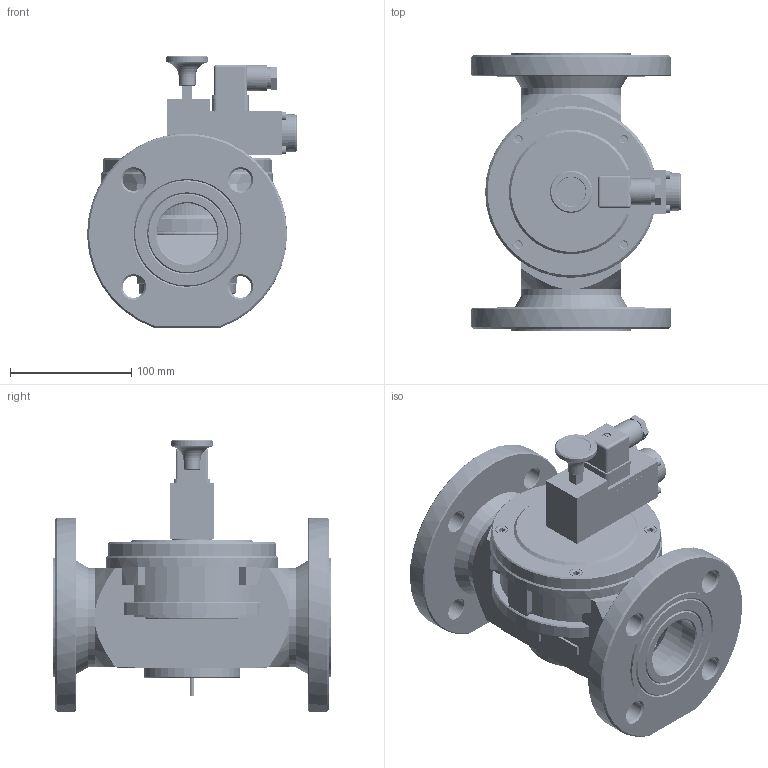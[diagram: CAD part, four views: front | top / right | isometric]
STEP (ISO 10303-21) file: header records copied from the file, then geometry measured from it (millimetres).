
FILE_DESCRIPTION( ( 'Unknown' ), '1' );
FILE_NAME( 'D:/Wyroby/Widoki gabarytowe/Zawory ZB/ZB_50k/ZB_50k.stp', 'Unknown', ( 'Unknown' ), ( 'Unknown' ), 'XStep 1.0', 'Unknown', ' ' );
FILE_SCHEMA( ( 'CONFIG_CONTROL_DESIGN' ) );
Length unit declared in the file: millimetre
Products named in the file (71): Gniazdo_wtykowe_B282; Wa_106_01_03bez_korków; Wa_104_01_02; Z³¹cze_C18211G21; Assem1; Wa_209_01_01; ElektromagnesZB_z_wtyczk¹; Wa_106_01_00; Wa_209_01_00; Wa_209_01_01bez_ko³ka; Ko³ek 3x40; Obudowa; Kostka; Uszczelka; Wkrêt_M3x30; Œruba_d³awika; Uszczelka_d³awika; cokó³_gniazda_wtykowego_B282; Wk³adka; Blaszka_uziemienia; Blaszka_fazy; Uszczelka_coko³u; Wa_209_02_00_008; Wa_209_02_00_007; Wa_209_01_00_001; Wa_209_01_00_002; Wa_209_01_00_003; Wa_209_01_00_004; Wa_209_01_00_005; W-039M3x9; Wa_209_01_00_007; ImbusM4x65; Wa_209_01_00_006彡i從i黎a7; Wa_209_01_00_011; Uzwojenie_Wa_209_01_02; zywica; Wa_209_01_00_012zaci從i黎a; Nalepka_35x25; Wa_104_01_02_001zaciœniety; Wa_031_01_02_002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
Bounding box: 173.1 x 230 x 224.5 mm (x, y, z)
Volume: 6442059.8 mm3; surface area: 1819105.3 mm2
Topology: 239 solids, 239 shells, 4633 faces, 10911 edges, 7107 vertices
Faces by surface type: plane 2657, cylinder 1268, cone 549, torus 120, sphere 29, bspline 10
Full cylindrical faces by diameter (mm): 1.6 x8, 2 x6, 2.1 x8, 2.459 x13, 2.5 x6, 3 x28, 3.2 x16, 3.242 x12, 3.5 x20, 4 x31, 4.1 x3, 4.5 x26, 4.917 x19, 5 x20, 5.2 x4, 5.5 x30, 5.9 x3, 6 x31, 6.1 x3, 6.5 x10, 6.6 x12, 6.647 x3, 7 x26, 7.5 x5, 8 x20, 8.4 x4, 9 x8, 10 x12, 10.917 x3, 11 x17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
Entity records: 37775 total; most frequent: CARTESIAN_POINT 10244, DIRECTION 5204, ORIENTED_EDGE 4226, EDGE_CURVE 2113, AXIS2_PLACEMENT_3D 2001, EDGE_LOOP 1764, VERTEX_POINT 1593, FACE_OUTER_BOUND 1389
